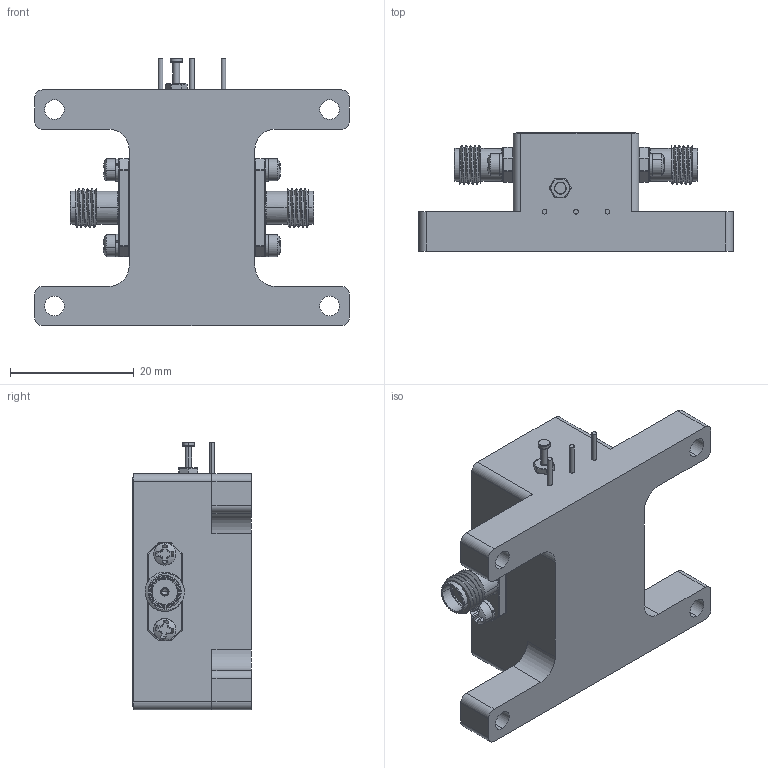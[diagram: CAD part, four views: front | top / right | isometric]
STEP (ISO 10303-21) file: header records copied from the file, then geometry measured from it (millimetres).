
FILE_DESCRIPTION (( 'STEP AP214' ), '1' );
FILE_NAME ('P1T-18G40G-90-1515-292FF.STEP', '2023-09-01T20:48:12', ( '' ), ( '' ), 'SwSTEP 2.0', 'SolidWorks 2023', '' );
FILE_SCHEMA (( 'AUTOMOTIVE_DESIGN' ));
Length unit declared in the file: inch
Products named in the file (1): P1T-18G40G-90-1515-292FF
Bounding box: 50.8 x 19.15 x 43.21 mm (x, y, z)
Volume: 17801.2 mm3; surface area: 8417.3 mm2
Topology: 18 solids, 18 shells, 813 faces, 3178 edges, 2565 vertices
Faces by surface type: plane 371, cylinder 213, torus 95, sphere 67, cone 47, bspline 20
Entity records: 53613 total; most frequent: CARTESIAN_POINT 16200, ORIENTED_EDGE 6248, DIRECTION 4708, EDGE_CURVE 3124, VERTEX_POINT 2565, AXIS2_PLACEMENT_3D 1575, LINE 1558, VECTOR 1558
